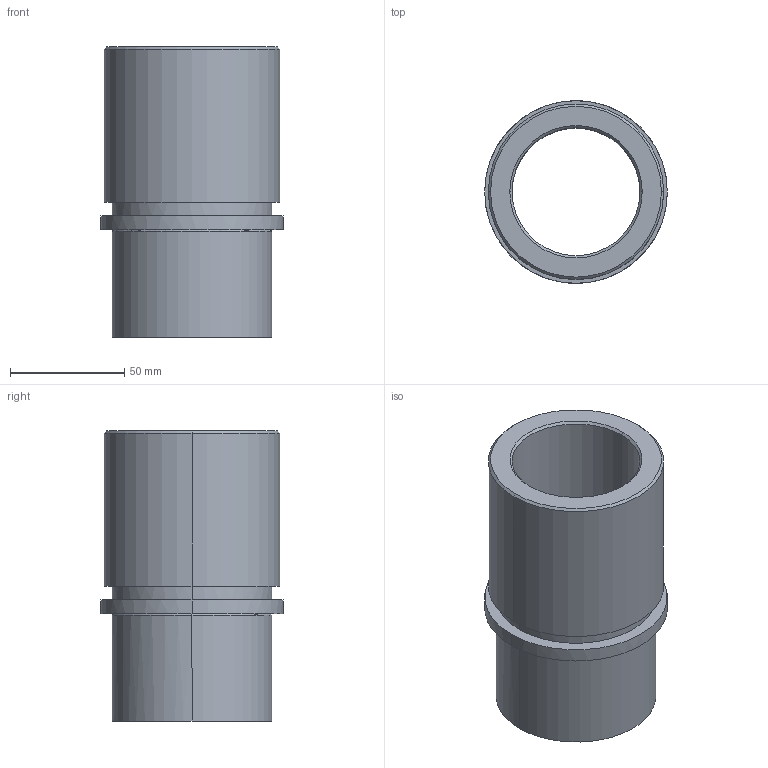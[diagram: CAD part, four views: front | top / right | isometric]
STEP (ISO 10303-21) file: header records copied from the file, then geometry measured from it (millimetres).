
FILE_DESCRIPTION(('CATIA V5 STEP Exchange'),'2;1');
FILE_NAME('C:\Users\Utente\Desktop\IO LAVORO\3D X SITO CF\X SITO\733\733-48.stp','2021-01-11T17:32:10+00:00',('none'),('none'),'CATIA Version 5 Release 20 GA (IN-10)','CATIA V5 STEP AP203','none');
FILE_SCHEMA(('CONFIG_CONTROL_DESIGN'));
Length unit declared in the file: millimetre
Products named in the file (1): 733-48
Assembly tree (1 placements, depth 2):
  733-48
    #58
Bounding box: 80 x 80 x 127 mm (x, y, z)
Volume: 235849.1 mm3; surface area: 58616.4 mm2
Topology: 1 solids, 1 shells, 25 faces, 50 edges, 30 vertices
Faces by surface type: cylinder 10, cone 6, plane 5, torus 4
Entity records: 851 total; most frequent: CARTESIAN_POINT 282, ORIENTED_EDGE 100, DIRECTION 96, AXIS2_PLACEMENT_3D 53, EDGE_CURVE 50, EDGE_LOOP 30, VERTEX_POINT 30, CIRCLE 26
